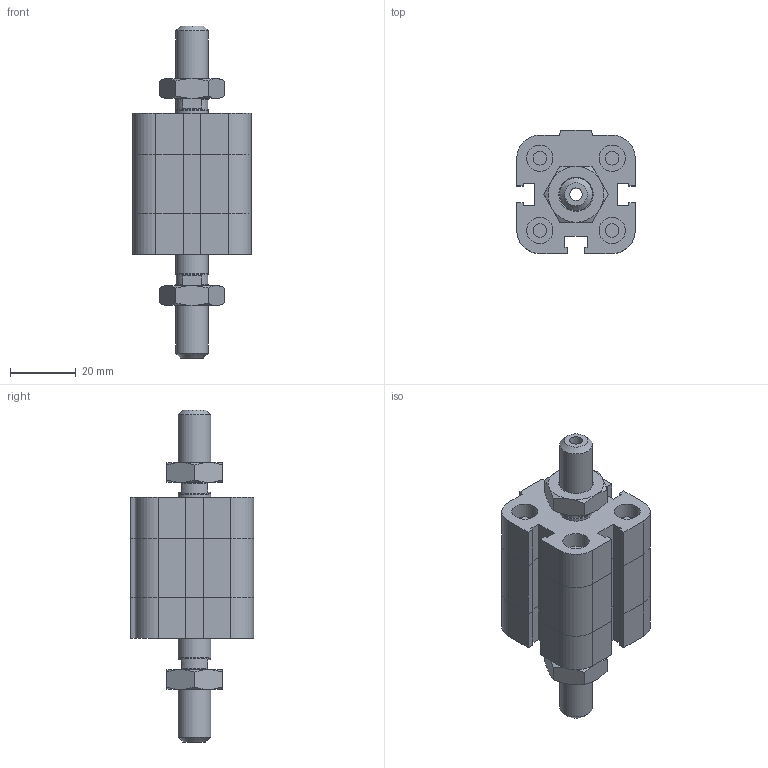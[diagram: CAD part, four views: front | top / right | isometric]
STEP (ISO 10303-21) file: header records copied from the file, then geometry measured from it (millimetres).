
FILE_DESCRIPTION((''),'2;1');
FILE_NAME('I:\Area Tecnica\Disegni\VARIE-3D\Componenti\EUROPE\15##_###_####_05_#\1581_20_0005_05_1.iam.stp','2009-04-20T14:59:44',(''),(''),'Autodesk Inventor 2009','Autodesk Inventor 2009','');
FILE_SCHEMA(('AUTOMOTIVE_DESIGN { 1 0 10303 214 1 1 1 1 }'));
Length unit declared in the file: millimetre
Products named in the file (4): 1581_20_0005_05_1; 1581_20_0005_03_1_C; 1561_20_0005_05_1_S; DBFM10
Assembly tree (4 placements, depth 2):
  1581_20_0005_05_1
    1581_20_0005_03_1_C
    1561_20_0005_05_1_S
    DBFM10  x2
Bounding box: 36 x 37.5 x 101 mm (x, y, z)
Volume: 51988.2 mm3; surface area: 19968 mm2
Topology: 4 solids, 4 shells, 223 faces, 486 edges, 291 vertices
Faces by surface type: plane 129, cone 35, bspline 34, cylinder 25
Full cylindrical faces by diameter (mm): 4.134 x4, 7.9 x1, 8 x4, 9.8 x2, 10 x2
Entity records: 5497 total; most frequent: CARTESIAN_POINT 1244, DIRECTION 806, ORIENTED_EDGE 776, EDGE_CURVE 388, AXIS2_PLACEMENT_3D 274, EDGE_LOOP 262, VECTOR 258, LINE 258
